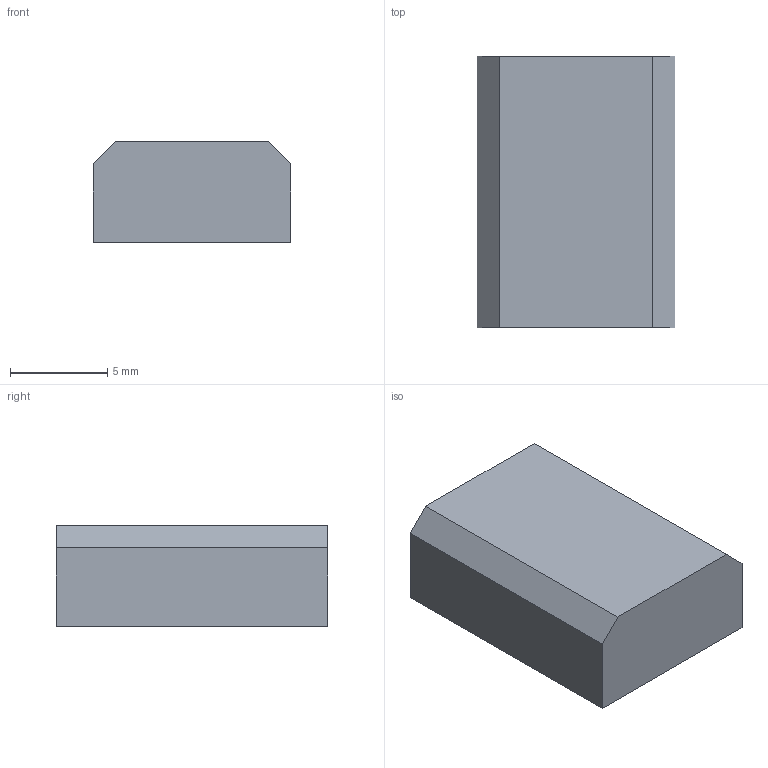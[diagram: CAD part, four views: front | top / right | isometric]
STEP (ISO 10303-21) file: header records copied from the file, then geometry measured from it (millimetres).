
FILE_DESCRIPTION(('Open CASCADE Model'),'2;1');
FILE_NAME('Open CASCADE Shape Model','2026-10-13T14:04:57',('Author'),( 'Open CASCADE'),'Open CASCADE STEP processor 8.0','build123d', 'Unknown');
FILE_SCHEMA(('AUTOMOTIVE_DESIGN { 1 0 10303 214 1 1 1 1 }'));
Length unit declared in the file: millimetre
Products named in the file (4): COMPOUND
Assembly tree (3 placements, depth 2):
  COMPOUND
    COMPOUND
    COMPOUND
    COMPOUND
Bounding box: 10.2 x 14 x 5.2 mm (x, y, z)
Volume: 644.3 mm3; surface area: 865.8 mm2
Topology: 3 solids, 3 shells, 18 faces, 30 edges, 20 vertices
Faces by surface type: plane 14, cylinder 4
Full cylindrical faces by diameter (mm): 3.121 x2, 3.672 x2
Entity records: 932 total; most frequent: CARTESIAN_POINT 144, DIRECTION 140, LINE 74, VECTOR 74, ORIENTED_EDGE 60, PCURVE 60, DEFINITIONAL_REPRESENTATION 60, AXIS2_PLACEMENT_3D 30
